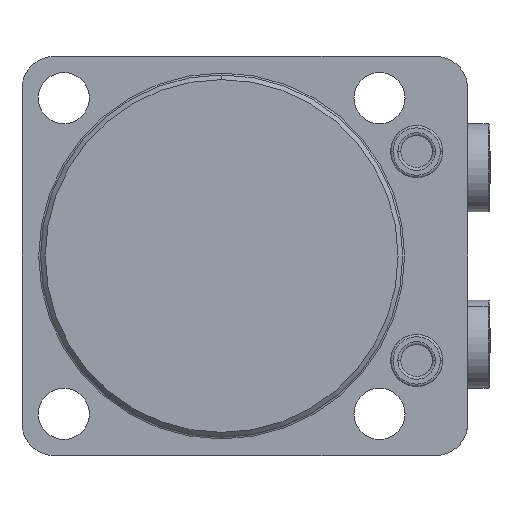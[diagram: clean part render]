
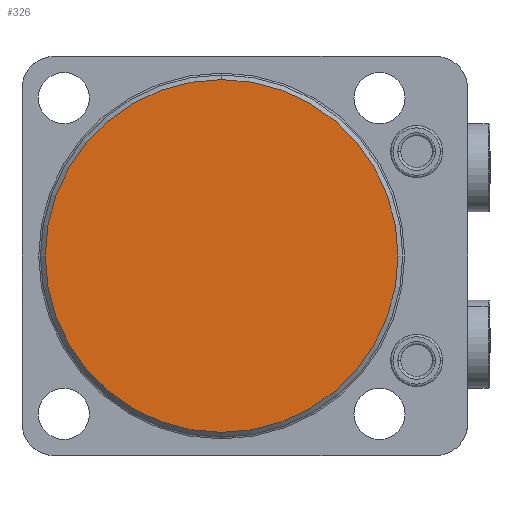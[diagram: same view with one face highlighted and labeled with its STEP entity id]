
A CAD part, front view. The second image highlights one B-rep face of the part: STEP entity #326.
In plain terms, the highlighted planar face has unit normal (0, -1, 0) as drawn and (0, 1, 0) by its records, which use the part's own axes.
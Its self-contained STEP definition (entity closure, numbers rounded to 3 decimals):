
#173=PLANE('',#2676);
#326=ADVANCED_FACE('',(#532),#173,.T.);
#532=FACE_OUTER_BOUND('',#677,.F.);
#677=EDGE_LOOP('',(#1223,#1224));
#875=CIRCLE('',#2640,38.);
#897=CIRCLE('',#2675,38.);
#1223=ORIENTED_EDGE('',*,*,#2083,.T.);
#1224=ORIENTED_EDGE('',*,*,#2022,.T.);
#1773=VERTEX_POINT('',#3956);
#1774=VERTEX_POINT('',#3957);
#2022=EDGE_CURVE('',#1773,#1774,#875,.T.);
#2083=EDGE_CURVE('',#1774,#1773,#897,.T.);
#2640=AXIS2_PLACEMENT_3D('',#3955,#3127,#3128);
#2675=AXIS2_PLACEMENT_3D('',#4085,#3231,#3232);
#2676=AXIS2_PLACEMENT_3D('',#4086,#3233,#3234);
#3127=DIRECTION('',(0.,-1.,0.));
#3128=DIRECTION('',(0.,0.,1.));
#3231=DIRECTION('',(0.,-1.,0.));
#3232=DIRECTION('',(0.,0.,1.));
#3233=DIRECTION('',(0.,1.,0.));
#3234=DIRECTION('',(0.,0.,1.));
#3955=CARTESIAN_POINT('',(0.,0.,0.));
#3956=CARTESIAN_POINT('',(0.,0.,-38.));
#3957=CARTESIAN_POINT('',(0.,0.,38.));
#4085=CARTESIAN_POINT('',(0.,0.,0.));
#4086=CARTESIAN_POINT('',(-43.,0.,43.));
